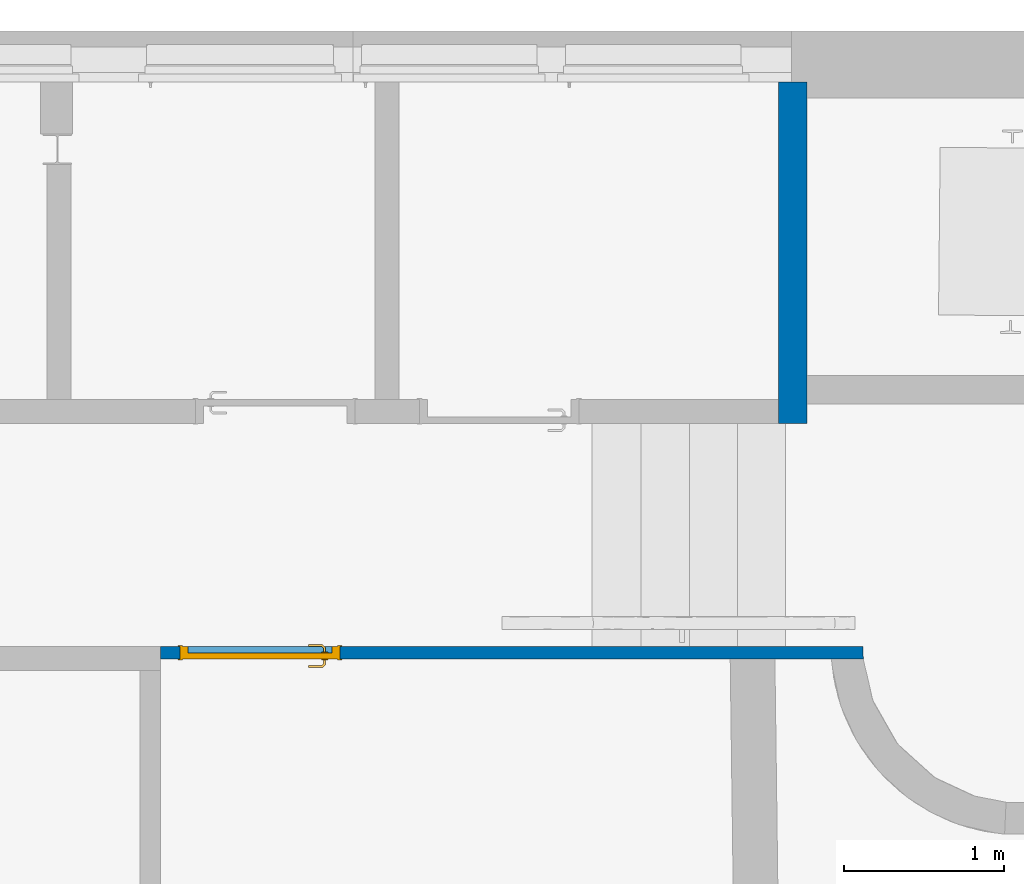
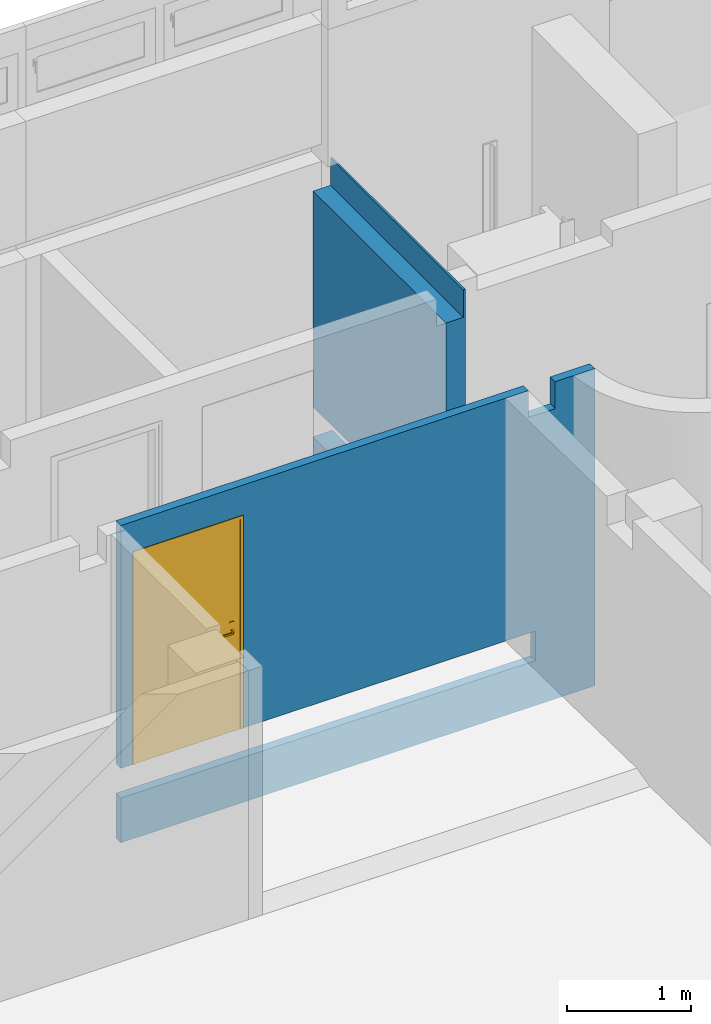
# One storey, part 29 of 39: 2 walls, 1 door, 1 opening.
"""IFC4 building model written with IfcOpenShell, lengths in metres."""

from ifc_helpers import new_model, entity, si_unit, converted_unit, derived_unit, direction, frame, origin, place, context, subcontext, project, spatial, indexed_curve, outline, extrude, polygons, source, transform, mapped, material, material_list, layer, layer_set, constituent, constituent_set, type_object, type_shapes, element, fill, save


model = new_model("IFC4")

# Units and contexts
model_context = context("Model", 3, precision=1e-05, world=origin(), true_north=direction((6.12303176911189e-17, 1.0)))
body_context = subcontext(model_context, "Body", "Model", "MODEL_VIEW")
ifc_project = project(units=[si_unit("LENGTHUNIT", "METRE"), si_unit("AREAUNIT", "SQUARE_METRE"), si_unit("VOLUMEUNIT", "CUBIC_METRE"), converted_unit("PLANEANGLEUNIT", "DEGREE", entity("IfcRatioMeasure", 0.0174532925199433), si_unit("PLANEANGLEUNIT", "RADIAN"), dimensions=[0, 0, 0, 0, 0, 0, 0]), si_unit("MASSUNIT", "GRAM", prefix="KILO"), derived_unit("MASSDENSITYUNIT", [(si_unit("MASSUNIT", "GRAM", prefix="KILO"), 1), (si_unit("LENGTHUNIT", "METRE"), -3)]), derived_unit("MOMENTOFINERTIAUNIT", [(si_unit("LENGTHUNIT", "METRE"), 4)]), si_unit("TIMEUNIT", "SECOND"), si_unit("FREQUENCYUNIT", "HERTZ"), si_unit("THERMODYNAMICTEMPERATUREUNIT", "DEGREE_CELSIUS"), derived_unit("THERMALTRANSMITTANCEUNIT", [(si_unit("MASSUNIT", "GRAM", prefix="KILO"), 1), (si_unit("THERMODYNAMICTEMPERATUREUNIT", "KELVIN"), -1), (si_unit("TIMEUNIT", "SECOND"), -3)]), derived_unit("VOLUMETRICFLOWRATEUNIT", [(si_unit("LENGTHUNIT", "METRE"), 3), (si_unit("TIMEUNIT", "SECOND"), -1)]), si_unit("ELECTRICCURRENTUNIT", "AMPERE"), si_unit("ELECTRICVOLTAGEUNIT", "VOLT"), si_unit("POWERUNIT", "WATT"), si_unit("FORCEUNIT", "NEWTON", prefix="KILO"), si_unit("ILLUMINANCEUNIT", "LUX"), si_unit("LUMINOUSFLUXUNIT", "LUMEN"), si_unit("LUMINOUSINTENSITYUNIT", "CANDELA"), derived_unit("USERDEFINED", [(si_unit("MASSUNIT", "GRAM", prefix="KILO"), -1), (si_unit("LENGTHUNIT", "METRE"), -2), (si_unit("TIMEUNIT", "SECOND"), 3), (si_unit("LUMINOUSFLUXUNIT", "LUMEN"), 1)]), derived_unit("LINEARVELOCITYUNIT", [(si_unit("LENGTHUNIT", "METRE"), 1), (si_unit("TIMEUNIT", "SECOND"), -1)]), si_unit("PRESSUREUNIT", "PASCAL"), derived_unit("USERDEFINED", [(si_unit("LENGTHUNIT", "METRE"), -2), (si_unit("MASSUNIT", "GRAM", prefix="KILO"), 1), (si_unit("TIMEUNIT", "SECOND"), -2)]), derived_unit("LINEARFORCEUNIT", [(si_unit("MASSUNIT", "GRAM", prefix="KILO"), 1), (si_unit("LENGTHUNIT", "METRE"), 1), (si_unit("TIMEUNIT", "SECOND"), -2), (si_unit("LENGTHUNIT", "METRE"), -1)]), derived_unit("PLANARFORCEUNIT", [(si_unit("MASSUNIT", "GRAM", prefix="KILO"), 1), (si_unit("LENGTHUNIT", "METRE"), 1), (si_unit("TIMEUNIT", "SECOND"), -2), (si_unit("LENGTHUNIT", "METRE"), -2)])], contexts=[model_context])

# Site, building, storey
site_placement = place(None, origin())
site = spatial("IfcSite", under=ifc_project, at=site_placement, Name="Default", CompositionType="ELEMENT")
building_placement = place(site_placement, origin())
building = spatial("IfcBuilding", under=site, at=building_placement, Name="HOTEL CONSULAIRE BOULOGNE SUR MER", CompositionType="ELEMENT")
storey_placement = place(building_placement, frame((0.0, 0.0, -5.02343668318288)))
storey = spatial("IfcBuildingStorey", under=building, at=storey_placement, Name="SS3", CompositionType="ELEMENT", Elevation=-5.02343668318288)

# Wall
ifc_material_1 = material(Name="Mur par défaut", Category="Divers")
ifc_layer_1 = layer(ifc_material_1, 0.18, Name="Mur par défaut", Category="Divers")
ifc_layer_set_1 = layer_set([ifc_layer_1], Name="Mur de base:Générique - Int.180")
wall_type_1 = type_object("IfcWallType", Name="Mur de base:Générique - Int.180", PredefinedType="NOTDEFINED", material=ifc_layer_set_1)
wall_1_placement = place(storey_placement, frame((7.21898026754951, -12.2714663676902, -0.939999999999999), z_axis=(0.0, 0.0, 1.0), x_axis=(0.0, 1.0, 0.0)))
element("IfcWall", 1, at=wall_1_placement, inside=storey, type_object=wall_type_1, material=ifc_layer_set_1, Name="Mur de base:Générique - Int.180", ObjectType="Mur de base:Générique - Int.180", PredefinedType="NOTDEFINED", context=body_context, shape_type="Tessellation", body=[
    polygons([(2.13714220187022, 0.0900000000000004, 0.0), (2.13714220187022, 0.0100000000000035, 0.0), (2.13714220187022, -0.0899999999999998, 0.0), (2.03714220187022, -0.0899999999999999, 0.0), (2.03714220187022, 0.0900000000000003, 0.0), (2.13714220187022, 0.0900000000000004, 0.729999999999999), (2.13714220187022, -0.0899999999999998, 0.729999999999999), (2.13714220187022, -0.0899999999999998, 3.40999999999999), (2.03714220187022, -0.0899999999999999, 3.40999999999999), (0.0, -0.0899999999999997, 3.40999999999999), (0.0, -0.0899999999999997, 0.0), (0.30067506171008, -0.0899999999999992, 0.0), (0.300675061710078, -0.0899999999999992, 0.249999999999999), (2.03714220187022, -0.0899999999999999, 0.249999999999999), (0.150000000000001, -0.0899999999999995, 0.729999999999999), (0.150000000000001, -0.0899999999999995, 1.02), (2.13714220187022, -0.0899999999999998, 1.02), (0.0, 0.0900000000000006, 3.13999999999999), (0.150000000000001, 0.0900000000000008, 3.13999999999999), (2.13714220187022, 0.0900000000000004, 3.13999999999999), (2.13714220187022, 0.0900000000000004, 1.02), (0.150000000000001, 0.0900000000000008, 1.02), (0.150000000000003, 0.0900000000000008, 0.729999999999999), (2.03714220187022, 0.0900000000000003, 0.249999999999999), (0.30067506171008, 0.090000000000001, 0.249999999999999), (0.30067506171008, 0.090000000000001, 0.0), (0.0, 0.0900000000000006, 0.0), (0.0, 0.0900000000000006, 0.289999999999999), (2.13714220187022, -0.0714576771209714, 3.40999999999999), (2.13714220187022, -0.0714576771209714, 3.13999999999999), (0.0, -0.0714576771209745, 3.40999999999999), (0.0, -0.0714576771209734, 3.13999999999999)], [[[3, 4, 5, 1, 2]], [[12, 11, 27, 26]], [[22, 21, 17, 16]], [[25, 24, 14, 13]], [[7, 3, 2, 1, 6]], [[29, 8, 17, 21, 20, 30]], [[22, 16, 15, 23]], [[25, 13, 12, 26]], [[11, 12, 13, 14, 4, 3, 7, 15, 16, 17, 8, 9, 10]], [[1, 5, 24, 25, 26, 27, 28, 18, 19, 20, 21, 22, 23, 6]], [[32, 31, 29, 30]], [[9, 8, 29, 31, 10]], [[19, 18, 32, 30, 20]], [[7, 6, 23, 15]], [[28, 27, 11, 10, 31, 32, 18]], [[14, 24, 5, 4]]], closed=True),
])

# Wall, opening, door
ifc_layer_2 = layer(ifc_material_1, 0.08, Name="Mur par défaut", Category="Divers")
ifc_layer_set_2 = layer_set([ifc_layer_2], Name="Mur de base:Générique - Int. 80")
wall_type_2 = type_object("IfcWallType", Name="Mur de base:Générique - Int. 80", PredefinedType="NOTDEFINED", material=ifc_layer_set_2)
wall_2_placement = place(storey_placement, frame((7.66106013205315, -13.708909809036, -0.649999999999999), z_axis=(0.0, 0.0, 1.0), x_axis=(-1.0, 0.0, 0.0)))
wall_2 = element("IfcWall", 2, at=wall_2_placement, inside=storey, type_object=wall_type_2, material=ifc_layer_set_2, Name="Mur de base:Générique - Int. 80", ObjectType="Mur de base:Générique - Int. 80", PredefinedType="NOTDEFINED", context=body_context, shape_type="Tessellation", body=[
    polygons([(4.40300516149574, -0.0399999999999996, 0.73), (4.40300516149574, 0.0399999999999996, 0.73), (4.40300516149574, 0.0399999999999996, 3.11399047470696), (4.40300516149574, -0.0399999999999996, 3.11399047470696), (0.620622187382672, -0.0399999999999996, 3.11399047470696), (0.834585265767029, 0.0399999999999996, 3.11399047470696), (0.620622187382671, 0.0399999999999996, 3.11399047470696), (4.28000516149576, -0.0399999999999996, 0.73), (4.28000516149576, 0.0399999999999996, 0.73), (0.00400807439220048, -0.0399999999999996, 0.0), (4.40300516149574, -0.0399999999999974, 0.0), (4.40300516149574, -0.0399999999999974, 0.22), (4.40300516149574, -0.0399999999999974, 0.44), (0.555598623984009, -0.0399999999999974, 0.44), (0.555598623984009, -0.0399999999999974, 0.73), (3.28000516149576, -0.0399999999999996, 0.73), (3.28000516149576, -0.0399999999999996, 2.805), (4.28000516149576, -0.0399999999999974, 2.805), (0.620622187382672, -0.0399999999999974, 2.84999999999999), (0.370622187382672, -0.0399999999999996, 2.84999999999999), (0.370622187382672, -0.0399999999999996, 3.11399047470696), (0.00400807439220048, -0.0399999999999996, 3.11399047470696), (4.40300516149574, 0.0400000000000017, 0.0), (0.834585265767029, 0.0399999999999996, 0.0), (0.554561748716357, 0.0400000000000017, 0.0), (0.200683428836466, 0.0399999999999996, 0.0), (-3.54523108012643e-16, 0.0399999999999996, 0.0), (-3.54523108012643e-16, 0.0399999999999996, 3.11399047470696), (0.200683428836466, 0.0399999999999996, 3.11399047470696), (0.370622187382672, 0.0399999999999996, 3.11399047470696), (0.370622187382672, 0.0399999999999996, 2.84999999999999), (0.554561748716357, 0.0400000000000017, 2.84999999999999), (0.620622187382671, 0.0400000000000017, 2.84999999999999), (4.28000516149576, 0.0400000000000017, 2.805), (3.28000516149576, 0.0399999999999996, 2.805), (3.28000516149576, 0.0399999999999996, 0.73), (0.834585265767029, 0.0399999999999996, 0.73), (0.554561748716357, 0.0400000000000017, 0.73), (0.554561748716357, 0.0400000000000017, 0.44), (0.834585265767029, 0.0399999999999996, 0.44), (4.40300516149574, 0.0400000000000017, 0.44), (0.00281348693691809, 4.05541847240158e-05, 0.0), (0.00281348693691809, 4.05541847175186e-05, 3.11399047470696), (0.00400807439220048, -0.0400000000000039, 2.19724567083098), (-3.54523108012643e-16, 0.0399999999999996, 1.55699523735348), (-3.54523108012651e-16, 0.0400000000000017, 2.33549285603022), (-3.54523108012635e-16, 0.0399999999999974, 2.56467905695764), (0.0040080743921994, -0.0400000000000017, 1.09862283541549), (-3.54523108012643e-16, 0.0399999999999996, 0.77849761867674), (0.00400807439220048, -0.0400000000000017, 0.549311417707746), (0.00400807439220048, -0.0400000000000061, 2.65561807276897), (-3.54523108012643e-16, 0.0399999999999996, 0.549311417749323), (0.00298654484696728, -0.00354359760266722, 2.45008595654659), (0.00281348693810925, 4.0554160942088e-05, 0.663904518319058), (-3.54523108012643e-16, 0.0399999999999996, 2.8393347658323), (0.00400807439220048, -0.0399999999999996, 0.274655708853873), (-3.54523108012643e-16, 0.0399999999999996, 1.16774642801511), (0.00400807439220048, -0.0400000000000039, 1.64793425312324), (-3.54523108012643e-16, 0.0399999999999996, 0.274655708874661), (-3.54523108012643e-16, 0.0399999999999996, 1.94624404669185), (0.00400807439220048, -0.0400000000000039, 1.37327854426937), (0.00289956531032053, -0.00170849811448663, 1.23595068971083), (0.00307192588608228, -0.00541938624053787, 0.949216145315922), (0.00400807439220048, -0.0399999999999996, 0.823967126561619), (0.00281583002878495, -6.23540095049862e-06, 2.74851082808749), (0.00260832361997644, 0.0039785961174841, 2.13547436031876), (0.00287960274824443, -0.00129720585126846, 1.8153024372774), (0.00296464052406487, -0.00307460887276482, 1.52568318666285), (0.00400807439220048, -0.0400000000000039, 1.92258996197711), (0.00281348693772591, 4.05541685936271e-05, 0.364908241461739)], [[[4, 1, 2, 3]], [[12, 11, 23, 41, 13]], [[35, 17, 16, 36]], [[30, 21, 20, 31]], [[6, 7, 5, 4, 3]], [[40, 39, 14, 13, 41]], [[32, 31, 20, 19, 33]], [[22, 21, 30, 29, 28, 43]], [[1, 8, 9, 2]], [[24, 23, 11, 10, 42, 27, 26, 25]], [[34, 18, 17, 35]], [[37, 36, 16, 15, 38]], [[10, 11, 12, 13, 14, 15, 16, 17, 18, 8, 1, 4, 5, 19, 20, 21, 22, 51, 44, 69, 58, 61, 48, 64, 50, 56]], [[41, 23, 24, 25, 26, 27, 59, 52, 49, 57, 45, 60, 46, 47, 55, 28, 29, 30, 31, 32, 33, 7, 6, 3, 2, 9, 34, 35, 36, 37, 38, 39, 40]], [[34, 9, 8, 18]], [[7, 33, 19, 5]], [[63, 62, 57]], [[54, 49, 52, 59, 27, 42, 70]], [[43, 28, 55]], [[60, 45, 67]], [[22, 65, 51]], [[53, 51, 65]], [[46, 53, 47]], [[66, 44, 53]], [[68, 62, 61]], [[65, 55, 47]], [[50, 64, 54, 70, 42, 10, 56]], [[53, 44, 51]], [[67, 66, 60]], [[63, 57, 49]], [[54, 64, 63]], [[53, 65, 47]], [[48, 62, 63]], [[45, 68, 67]], [[46, 66, 53]], [[61, 62, 48]], [[57, 62, 45]], [[54, 63, 49]], [[64, 48, 63]], [[65, 43, 55]], [[43, 65, 22]], [[67, 69, 66]], [[60, 66, 46]], [[68, 58, 67]], [[58, 68, 61]], [[62, 68, 45]], [[44, 66, 69]], [[67, 58, 69]], [[15, 14, 39, 38]]], closed=True),
])
opening_placement = place(wall_2_placement, frame((3.28000516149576, -0.0399999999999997, 0.73)))
opening = element("IfcOpeningElement", 3, at=opening_placement, cuts=wall_2, Name="Int. Simple:PP0.93x2.04:1", ObjectType="Opening", PredefinedType="OPENING", context=body_context, shape_type="SweptSolid", body=[
    extrude(outline(indexed_curve([(0.0, 1.0), (0.0, -4.18747709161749e-30), (2.075, -4.18747709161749e-30), (2.075, 1.0), (0.0, 1.0)], self_intersect=False)), frame((0.0, 0.0, 0.0), z_axis=(0.0, 1.0, 0.0), x_axis=(0.0, 0.0, 1.0)), (0.0, 0.0, 1.0), 0.08),
])
ifc_material_2 = material(Name="Finition Peinture - Blanc satiné", Category="Peinture")
ifc_constituent_1 = constituent(ifc_material_2, Name="Finition Peinture - Blanc satiné", Category="Matériaux")
ifc_material_3 = material(Name="Bois - Panneau de porte", Category="Bois")
ifc_constituent_2 = constituent(ifc_material_3, Name="Bois - Panneau de porte", Category="Matériaux")
ifc_material_4 = material(Name="Bois - Cadre de porte", Category="Bois")
ifc_constituent_3 = constituent(ifc_material_4, Name="Bois - Cadre de porte", Category="Matériaux")
ifc_constituent_set = constituent_set(constituents=[ifc_constituent_1, ifc_constituent_2, ifc_constituent_3], Name="MaterialConstituentSet")
ifc_material_list = material_list([ifc_material_2, ifc_material_4, ifc_material_3, ifc_material_4])
door_type = type_object("IfcDoorType", Name="Int. Simple:PP0.93x2.04", OperationType="NOTDEFINED", PredefinedType="DOOR", material=ifc_material_list)
shared_shape = source(origin(), body_context, "Body", "Tessellation", [
    polygons([(0.995000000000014, -0.00500000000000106, 0.870000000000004), (0.995000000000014, -0.00500000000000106, 1.08), (0.985352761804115, -0.00500000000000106, 1.08399601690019), (0.975000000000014, -0.00500000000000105, 1.08535898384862), (0.964647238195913, -0.00500000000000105, 1.08399601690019), (0.955000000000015, -0.00500000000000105, 1.08), (0.955000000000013, -0.00500000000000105, 0.870000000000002), (0.964647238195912, -0.00500000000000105, 0.866003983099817), (0.975000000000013, -0.00500000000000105, 0.86464101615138), (0.985352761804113, -0.00500000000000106, 0.866003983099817), (0.995000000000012, -1.06594733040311e-15, 0.870000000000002), (0.985352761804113, -1.06594733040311e-15, 0.866003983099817), (0.975000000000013, -1.05748743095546e-15, 0.86464101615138), (0.964647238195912, -1.05748743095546e-15, 0.866003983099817), (0.955000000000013, -1.04902753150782e-15, 0.870000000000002), (0.955000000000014, -1.04902753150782e-15, 1.08), (0.964647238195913, -1.05748743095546e-15, 1.08399601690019), (0.975000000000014, -1.05748743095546e-15, 1.08535898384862), (0.985352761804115, -1.06594733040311e-15, 1.08399601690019), (0.995000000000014, -1.06594733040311e-15, 1.08)], [[[1, 2, 3, 4, 5, 6, 7, 8, 9, 10]], [[20, 11, 12, 13, 14, 15, 16, 17, 18, 19]], [[10, 12, 11, 1]], [[9, 13, 12, 10]], [[8, 14, 13, 9]], [[8, 7, 15, 14]], [[15, 7, 6, 16]], [[5, 17, 16, 6]], [[4, 18, 17, 5]], [[3, 19, 18, 4]], [[3, 2, 20, 19]], [[11, 20, 2, 1]]], closed=True),
    polygons([(0.955000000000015, 0.0399999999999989, 1.08), (0.955000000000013, 0.0399999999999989, 0.870000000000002), (0.964647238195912, 0.0399999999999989, 0.866003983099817), (0.975000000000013, 0.0399999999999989, 0.86464101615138), (0.985352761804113, 0.0399999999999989, 0.866003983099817), (0.995000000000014, 0.0399999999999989, 0.870000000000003), (0.995000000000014, 0.0399999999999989, 1.08), (0.985352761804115, 0.0399999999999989, 1.08399601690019), (0.975000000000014, 0.0399999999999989, 1.08535898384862), (0.964647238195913, 0.0399999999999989, 1.08399601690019), (0.955000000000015, 0.0449999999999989, 1.08), (0.964647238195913, 0.0449999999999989, 1.08399601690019), (0.975000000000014, 0.0449999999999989, 1.08535898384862), (0.985352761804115, 0.0449999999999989, 1.08399601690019), (0.995000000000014, 0.0449999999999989, 1.08), (0.995000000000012, 0.0449999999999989, 0.870000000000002), (0.985352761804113, 0.0449999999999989, 0.866003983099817), (0.975000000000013, 0.0449999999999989, 0.86464101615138), (0.964647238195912, 0.0449999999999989, 0.866003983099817), (0.955000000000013, 0.0449999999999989, 0.870000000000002)], [[[6, 7, 8, 9, 10, 1, 2, 3, 4, 5]], [[13, 14, 15, 16, 17, 18, 19, 20, 11, 12]], [[10, 12, 11, 1]], [[9, 13, 12, 10]], [[8, 14, 13, 9]], [[8, 7, 15, 14]], [[16, 15, 7, 6]], [[5, 17, 16, 6]], [[4, 18, 17, 5]], [[3, 19, 18, 4]], [[3, 2, 20, 19]], [[20, 2, 1, 11]]], closed=True),
    polygons([(0.981000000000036, -0.00500000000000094, 1.00699999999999), (0.981000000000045, -0.00500000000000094, 0.992999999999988), (0.977025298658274, -0.00500000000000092, 0.99221955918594), (0.972974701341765, -0.0050000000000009, 0.992219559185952), (0.968999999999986, -0.00500000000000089, 0.993000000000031), (0.968999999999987, -0.00500000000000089, 1.007), (0.972974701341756, -0.0050000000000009, 1.00778044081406), (0.977025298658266, -0.00500000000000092, 1.00778044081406), (0.968999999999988, -0.0276803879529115, 1.007), (0.972974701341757, -0.0293267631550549, 1.00778044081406), (0.977025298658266, -0.0310045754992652, 1.00778044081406), (0.981000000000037, -0.0326509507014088, 1.007), (0.968999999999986, -0.0276803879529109, 0.993000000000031), (0.981000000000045, -0.0326509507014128, 0.992999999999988), (0.977025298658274, -0.0310045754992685, 0.99221955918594), (0.972974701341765, -0.0293267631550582, 0.992219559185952), (0.957652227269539, -0.0390281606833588, 1.007), (0.959298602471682, -0.0430028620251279, 1.00778044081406), (0.960976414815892, -0.0470534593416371, 1.00778044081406), (0.962622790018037, -0.0510281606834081, 1.007), (0.957652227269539, -0.0390281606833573, 0.993000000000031), (0.96262279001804, -0.0510281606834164, 0.992999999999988), (0.960976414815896, -0.047053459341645, 0.99221955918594), (0.959298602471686, -0.0430028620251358, 0.992219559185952), (0.874981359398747, -0.0510281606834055, 1.007), (0.874981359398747, -0.0470534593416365, 1.00778044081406), (0.874981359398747, -0.0430028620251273, 1.00778044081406), (0.874981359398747, -0.0390281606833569, 1.00699999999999), (0.874981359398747, -0.0390281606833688, 0.993000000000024), (0.874981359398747, -0.0430028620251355, 0.992219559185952), (0.874981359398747, -0.0470534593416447, 0.99221955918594), (0.874981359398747, -0.0510281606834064, 0.992999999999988), (0.922692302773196, -0.051028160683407, 1.007), (0.917139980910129, -0.045028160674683, 1.0078786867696), (0.916316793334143, -0.039028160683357, 1.007), (0.922692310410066, -0.0510281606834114, 0.992999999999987), (0.917139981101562, -0.0450281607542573, 0.992121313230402), (0.916316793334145, -0.039028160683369, 0.993000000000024)], [[[7, 8, 1, 2, 3, 4, 5, 6]], [[17, 21, 38, 29, 28, 35]], [[1, 8, 11, 12]], [[8, 7, 10, 18, 19, 11]], [[7, 6, 9, 10]], [[13, 9, 6, 5]], [[25, 26, 27, 28, 29, 30, 31, 32]], [[4, 16, 13, 5]], [[4, 3, 15, 23, 24, 16]], [[2, 14, 15, 3]], [[12, 14, 2, 1]], [[12, 11, 19, 20]], [[10, 9, 17, 18]], [[21, 17, 9, 13]], [[13, 16, 24, 21]], [[15, 14, 22, 23]], [[20, 22, 14, 12]], [[34, 26, 33]], [[33, 26, 25]], [[33, 20, 19]], [[18, 35, 34]], [[35, 18, 17]], [[28, 27, 35]], [[34, 27, 26]], [[34, 35, 27]], [[34, 33, 19]], [[18, 34, 19]], [[37, 30, 38]], [[31, 37, 36]], [[24, 38, 21]], [[30, 29, 38]], [[31, 36, 32]], [[36, 23, 22]], [[37, 23, 36]], [[37, 24, 23]], [[37, 38, 24]], [[30, 37, 31]], [[22, 20, 33, 25, 32, 36]]], closed=True),
    polygons([(0.968999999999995, 0.0449999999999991, 0.993000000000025), (0.972974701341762, 0.0449999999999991, 0.992219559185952), (0.977025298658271, 0.0449999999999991, 0.99221955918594), (0.981000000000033, 0.044999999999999, 0.992999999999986), (0.981000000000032, 0.044999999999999, 1.007), (0.977025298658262, 0.0449999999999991, 1.00778044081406), (0.972974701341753, 0.0449999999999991, 1.00778044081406), (0.968999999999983, 0.0449999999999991, 1.007), (0.968999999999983, 0.067485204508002, 1.007), (0.968999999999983, 0.0674852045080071, 0.993000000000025), (0.981000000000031, 0.0724557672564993, 1.007), (0.977025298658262, 0.070809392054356, 1.00778044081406), (0.972974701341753, 0.0691315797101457, 1.00778044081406), (0.981000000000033, 0.0724557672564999, 0.992999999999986), (0.972974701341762, 0.0691315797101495, 0.992219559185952), (0.977025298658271, 0.0708093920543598, 0.99221955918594), (0.957514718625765, 0.0789704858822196, 1.007), (0.957514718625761, 0.0789704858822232, 0.993000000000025), (0.962485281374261, 0.0909704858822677, 1.007), (0.960838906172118, 0.0869957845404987, 1.00778044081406), (0.959161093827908, 0.0829451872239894, 1.00778044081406), (0.962485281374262, 0.0909704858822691, 0.992999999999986), (0.959161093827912, 0.0829451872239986, 0.992219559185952), (0.960838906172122, 0.0869957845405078, 0.99221955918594), (0.874954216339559, 0.0789704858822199, 0.993000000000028), (0.874954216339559, 0.0789704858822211, 1.007), (0.874954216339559, 0.0829451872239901, 1.00778044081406), (0.874954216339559, 0.0869957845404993, 1.00778044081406), (0.874954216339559, 0.0909704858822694, 1.007), (0.874954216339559, 0.0909704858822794, 0.992999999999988), (0.874954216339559, 0.086995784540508, 0.99221955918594), (0.874954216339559, 0.0829451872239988, 0.992219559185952), (0.922554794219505, 0.0909704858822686, 1.007), (0.917057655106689, 0.0849704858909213, 1.0078786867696), (0.916234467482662, 0.0789704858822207, 1.007), (0.922554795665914, 0.0909704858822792, 0.992999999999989), (0.917057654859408, 0.0849704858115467, 0.992121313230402), (0.916234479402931, 0.0789704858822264, 0.993000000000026)], [[[2, 3, 4, 5, 6, 7, 8, 1]], [[18, 17, 35, 26, 25, 38]], [[9, 10, 1, 8]], [[27, 28, 29, 30, 31, 32, 25, 26]], [[7, 13, 9, 8]], [[7, 6, 12, 20, 21, 13]], [[5, 11, 12, 6]], [[11, 5, 4, 14]], [[4, 3, 16, 14]], [[3, 2, 15, 23, 24, 16]], [[2, 1, 10, 15]], [[17, 18, 10, 9]], [[9, 13, 21, 17]], [[11, 19, 20, 12]], [[22, 19, 11, 14]], [[14, 16, 24, 22]], [[15, 10, 18, 23]], [[34, 27, 35]], [[28, 34, 33]], [[21, 35, 17]], [[27, 26, 35]], [[28, 33, 29]], [[33, 20, 19]], [[34, 20, 33]], [[34, 21, 20]], [[34, 35, 21]], [[27, 34, 28]], [[19, 22, 36, 30, 29, 33]], [[37, 31, 36]], [[36, 31, 30]], [[36, 22, 24]], [[23, 38, 37]], [[38, 23, 18]], [[25, 32, 38]], [[37, 32, 31]], [[37, 38, 32]], [[37, 36, 24]], [[23, 37, 24]]], closed=True),
    polygons([(1.03500000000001, 0.04, 2.04), (1.03500000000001, 0.04, 0.0), (0.105000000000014, 0.04, 0.0), (0.105000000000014, 0.04, 2.04), (1.03500000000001, 3.38395977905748e-17, 2.04), (0.105000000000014, 3.38395977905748e-17, 2.04), (0.105000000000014, 3.38395977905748e-17, 0.0), (1.03500000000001, 3.38395977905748e-17, 0.0)], [[[3, 4, 1, 2]], [[8, 5, 6, 7]], [[5, 1, 4, 6]], [[6, 4, 3, 7]], [[7, 3, 2, 8]], [[8, 2, 1, 5]]], closed=True),
    polygons([(1.07000000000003, -8.45989944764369e-18, 0.0), (1.03500000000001, -8.45989944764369e-18, 0.0), (1.03500000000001, 0.0400000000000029, 0.0), (1.02000000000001, 0.0400000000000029, 0.0), (1.02000000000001, 0.080000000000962, 0.0), (1.07000000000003, 0.080000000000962, 0.0), (1.07000000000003, 0.080000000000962, 2.07500000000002), (1.07000000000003, -8.45989944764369e-18, 2.07500000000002), (1.02000000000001, 0.080000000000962, 2.025), (0.120000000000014, 0.080000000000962, 2.025), (0.120000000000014, 0.080000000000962, 3.59657255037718e-24), (0.0699999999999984, 0.080000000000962, 3.88816484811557e-25), (0.0699999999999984, 0.080000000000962, 2.07500000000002), (1.02000000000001, 0.0400000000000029, 2.025), (1.03500000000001, 0.0400000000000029, 2.04), (0.105000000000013, 0.0400000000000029, 2.04), (0.105000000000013, 0.0400000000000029, -4.78103047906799e-25), (0.120000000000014, 0.0400000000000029, 2.24110802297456e-24), (0.120000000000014, 0.0400000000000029, 2.025), (1.03500000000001, -8.45989944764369e-18, 2.04), (0.0699999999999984, -8.45989944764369e-18, 2.07500000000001), (0.0699999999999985, -8.45989944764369e-18, -3.95490158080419e-25), (0.105000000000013, -8.45989944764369e-18, -2.84752548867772e-24), (0.105000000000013, -8.45989944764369e-18, 2.04)], [[[5, 6, 1, 2, 3, 4]], [[17, 23, 22, 12, 11, 18]], [[19, 10, 9, 14]], [[24, 16, 15, 20]], [[7, 8, 1, 6]], [[18, 11, 10, 19]], [[17, 16, 24, 23]], [[9, 10, 11, 12, 13, 7, 6, 5]], [[14, 9, 5, 4]], [[15, 3, 2, 20]], [[12, 22, 21, 13]], [[19, 14, 4, 3, 15, 16, 17, 18]], [[24, 20, 2, 1, 8, 21, 22, 23]], [[21, 8, 7, 13]]], closed=True),
    polygons([(1.05500000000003, 0.080000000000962, 0.0), (1.05500000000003, 0.085000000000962, 0.0), (1.08500000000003, 0.085000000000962, 0.0), (1.08500000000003, 0.080000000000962, 0.0), (1.08500000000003, 0.080000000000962, 2.09000000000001), (0.0550000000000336, 0.080000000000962, 2.09000000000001), (0.0550000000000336, 0.080000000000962, -9.00794238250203e-25), (0.0850000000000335, 0.080000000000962, -1.80158911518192e-24), (0.0850000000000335, 0.080000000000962, 2.06000000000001), (1.05500000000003, 0.080000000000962, 2.06000000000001), (1.08500000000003, 0.085000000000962, 2.09000000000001), (1.05500000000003, 0.085000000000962, 2.06000000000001), (0.0850000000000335, 0.085000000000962, 2.06000000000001), (0.0850000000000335, 0.085000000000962, -4.34281663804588e-24), (0.0550000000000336, 0.085000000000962, -5.48159974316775e-24), (0.0550000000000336, 0.085000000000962, 2.09000000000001)], [[[2, 3, 4, 1]], [[7, 15, 14, 8]], [[13, 12, 10, 9]], [[9, 10, 1, 4, 5, 6, 7, 8]], [[11, 5, 4, 3]], [[8, 14, 13, 9]], [[12, 13, 14, 15, 16, 11, 3, 2]], [[10, 12, 2, 1]], [[15, 7, 6, 16]], [[6, 5, 11, 16]]], closed=True),
    polygons([(1.05500000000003, -0.00499999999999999, 0.0), (1.05500000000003, -8.45989944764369e-18, 0.0), (1.08500000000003, -8.45989944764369e-18, 0.0), (1.08500000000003, -0.00499999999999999, 0.0), (0.0850000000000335, -0.00499999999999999, 5.41433564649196e-16), (0.0550000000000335, -0.00499999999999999, 5.41433564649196e-16), (0.0550000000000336, -8.45989944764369e-18, 5.41433564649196e-16), (0.0850000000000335, -8.45989944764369e-18, 5.41433564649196e-16), (1.08500000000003, -0.00499999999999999, 2.09000000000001), (0.0550000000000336, -0.00499999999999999, 2.09000000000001), (0.0850000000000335, -0.00499999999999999, 2.06000000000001), (1.05500000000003, -0.00499999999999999, 2.06000000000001), (1.08500000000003, -8.45989944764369e-18, 2.09000000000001), (1.05500000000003, -8.45989944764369e-18, 2.06000000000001), (0.0850000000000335, -8.45989944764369e-18, 2.06000000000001), (0.0550000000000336, -8.45989944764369e-18, 2.09000000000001)], [[[2, 3, 4, 1]], [[5, 6, 7, 8]], [[15, 14, 12, 11]], [[11, 12, 1, 4, 9, 10, 6, 5]], [[9, 4, 3, 13]], [[5, 8, 15, 11]], [[14, 15, 8, 7, 16, 13, 3, 2]], [[12, 14, 2, 1]], [[6, 10, 16, 7]], [[16, 10, 9, 13]]], closed=True),
])
type_shapes(door_type, [shared_shape])
door_placement = place(opening_placement, frame((1.07000000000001, 0.0799999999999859, 0.0), z_axis=(0.0, 0.0, 1.0), x_axis=(-1.0, 0.0, 0.0)))
door = element("IfcDoor", 4, at=door_placement, inside=storey, type_object=door_type, material=ifc_constituent_set, Name="Int. Simple:PP0.93x2.04", ObjectType="Int. Simple:PP0.93x2.04", OperationType="NOTDEFINED", OverallHeight=2.075, OverallWidth=1.0, PredefinedType="DOOR", context=body_context, shape_type="MappedRepresentation", body=[
    mapped(shared_shape, transform((0.0, 0.0, 0.0), scale=1.0)),
])
fill(opening, door)

save(model, "model.ifc")
